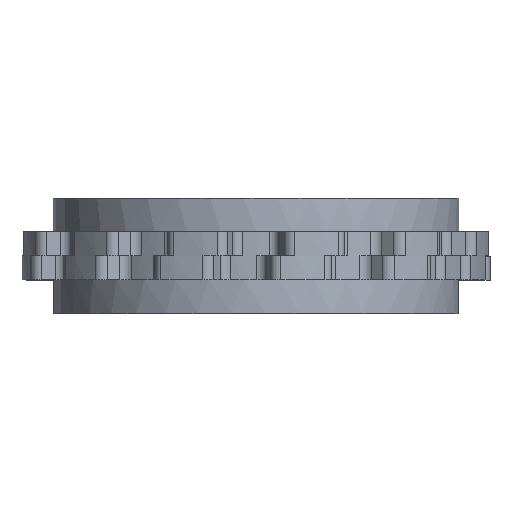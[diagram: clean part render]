
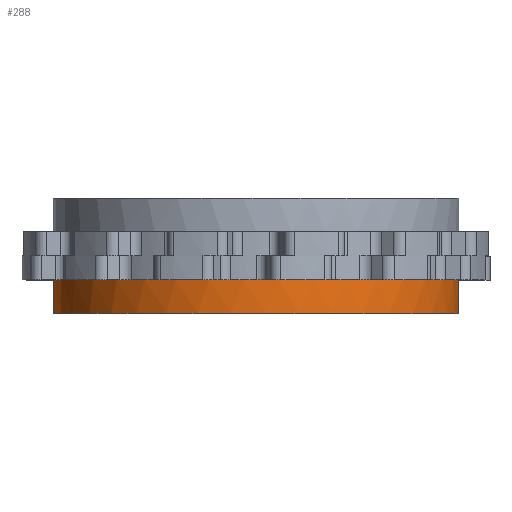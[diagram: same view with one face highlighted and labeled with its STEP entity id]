
A CAD part, top view. The second image highlights one B-rep face of the part: STEP entity #288.
In plain terms, the highlighted cylindrical face has radius 42.25 mm (diameter 84.5 mm), a partial arc.
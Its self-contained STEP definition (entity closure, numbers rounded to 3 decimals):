
#73=CARTESIAN_POINT('Vertex',(-42.171,-12.,-2.579)) ;
#75=CARTESIAN_POINT('Vertex',(42.171,-12.,2.579)) ;
#79=CARTESIAN_POINT('Control Point',(-42.171,-12.,-2.579)) ;
#80=CARTESIAN_POINT('Control Point',(-42.576,-12.,4.045)) ;
#81=CARTESIAN_POINT('Control Point',(-41.681,-12.,10.749)) ;
#82=CARTESIAN_POINT('Control Point',(-39.463,-12.,17.191)) ;
#83=CARTESIAN_POINT('Control Point',(-32.619,-12.,28.859)) ;
#84=CARTESIAN_POINT('Control Point',(-21.872,-12.,37.073)) ;
#85=CARTESIAN_POINT('Control Point',(-15.748,-12.,40.06)) ;
#86=CARTESIAN_POINT('Control Point',(-2.659,-12.,43.472)) ;
#87=CARTESIAN_POINT('Control Point',(10.749,-12.,41.681)) ;
#88=CARTESIAN_POINT('Control Point',(17.191,-12.,39.463)) ;
#89=CARTESIAN_POINT('Control Point',(28.859,-12.,32.619)) ;
#90=CARTESIAN_POINT('Control Point',(37.073,-12.,21.872)) ;
#91=CARTESIAN_POINT('Control Point',(40.06,-12.,15.748)) ;
#92=CARTESIAN_POINT('Control Point',(41.766,-12.,9.204)) ;
#93=CARTESIAN_POINT('Control Point',(42.171,-12.,2.579)) ;
#246=CARTESIAN_POINT('Axis2P3D Location',(0.,-7.,0.)) ;
#251=CARTESIAN_POINT('Line Origine',(-42.171,-7.,-2.579)) ;
#255=CARTESIAN_POINT('Vertex',(-42.171,-5.,-2.579)) ;
#262=CARTESIAN_POINT('Vertex',(42.171,-5.,2.579)) ;
#265=CARTESIAN_POINT('Line Origine',(42.171,-7.,2.579)) ;
#277=CARTESIAN_POINT('Axis2P3D Location',(0.,-5.,0.)) ;
#247=DIRECTION('Axis2P3D Direction',(0.,1.,0.)) ;
#248=DIRECTION('Axis2P3D XDirection',(-0.998,0.,-0.061)) ;
#252=DIRECTION('Vector Direction',(0.,1.,0.)) ;
#266=DIRECTION('Vector Direction',(0.,1.,0.)) ;
#278=DIRECTION('Axis2P3D Direction',(0.,1.,0.)) ;
#249=AXIS2_PLACEMENT_3D('Cylinder Axis2P3D',#246,#247,#248) ;
#279=AXIS2_PLACEMENT_3D('Circle Axis2P3D',#277,#278,$) ;
#283=ORIENTED_EDGE('',*,*,#269,.F.) ;
#284=ORIENTED_EDGE('',*,*,#281,.F.) ;
#285=ORIENTED_EDGE('',*,*,#257,.T.) ;
#286=ORIENTED_EDGE('',*,*,#94,.F.) ;
#253=VECTOR('Line Direction',#252,1.) ;
#267=VECTOR('Line Direction',#266,1.) ;
#288=ADVANCED_FACE('Body.2',(#287),#250,.T.) ;
#78=B_SPLINE_CURVE_WITH_KNOTS('',5,(#79,#80,#81,#82,#83,#84,#85,#86,#87,#88,#89,#90,#91,#92,#93),.UNSPECIFIED.,.F.,.U.,(6,3,3,3,6),(0.,33.183,66.366,99.549,132.732),.UNSPECIFIED.) ;
#280=CIRCLE('generated circle',#279,42.25) ;
#250=CYLINDRICAL_SURFACE('generated cylinder',#249,42.25) ;
#94=EDGE_CURVE('',#76,#74,#78,.F.) ;
#257=EDGE_CURVE('',#256,#74,#254,.F.) ;
#269=EDGE_CURVE('',#263,#76,#268,.F.) ;
#281=EDGE_CURVE('',#256,#263,#280,.T.) ;
#282=EDGE_LOOP('',(#283,#284,#285,#286)) ;
#287=FACE_OUTER_BOUND('',#282,.T.) ;
#254=LINE('Line',#251,#253) ;
#268=LINE('Line',#265,#267) ;
#74=VERTEX_POINT('',#73) ;
#76=VERTEX_POINT('',#75) ;
#256=VERTEX_POINT('',#255) ;
#263=VERTEX_POINT('',#262) ;
